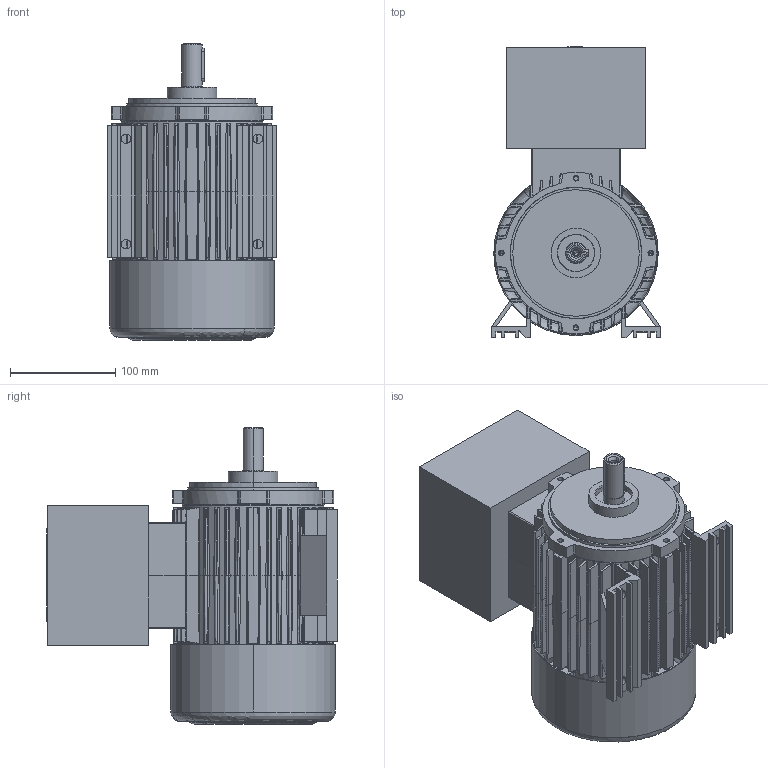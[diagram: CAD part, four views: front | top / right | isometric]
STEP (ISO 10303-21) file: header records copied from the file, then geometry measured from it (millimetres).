
FILE_DESCRIPTION (( 'STEP AP214' ), '1' );
FILE_NAME ('20.118391-A 5AT 80 B3 Exd STANDK.STEP', '2018-05-08T07:27:05', ( '' ), ( '' ), 'SwSTEP 2.0', 'SolidWorks 2017', '' );
FILE_SCHEMA (( 'AUTOMOTIVE_DESIGN' ));
Length unit declared in the file: millimetre
Products named in the file (1): 20.118391-A 5AT 80 B3 Exd STANDK
Bounding box: 160 x 276 x 281 mm (x, y, z)
Volume: 3330105.8 mm3; surface area: 535801.1 mm2
Topology: 6 solids, 14 shells, 1013 faces, 2558 edges, 1620 vertices
Faces by surface type: plane 379, bspline 234, cone 203, cylinder 197
Entity records: 49440 total; most frequent: CARTESIAN_POINT 27723, ORIENTED_EDGE 5088, DIRECTION 3209, EDGE_CURVE 2544, VERTEX_POINT 1620, B_SPLINE_CURVE_WITH_KNOTS 1249, AXIS2_PLACEMENT_3D 1147, EDGE_LOOP 1100
